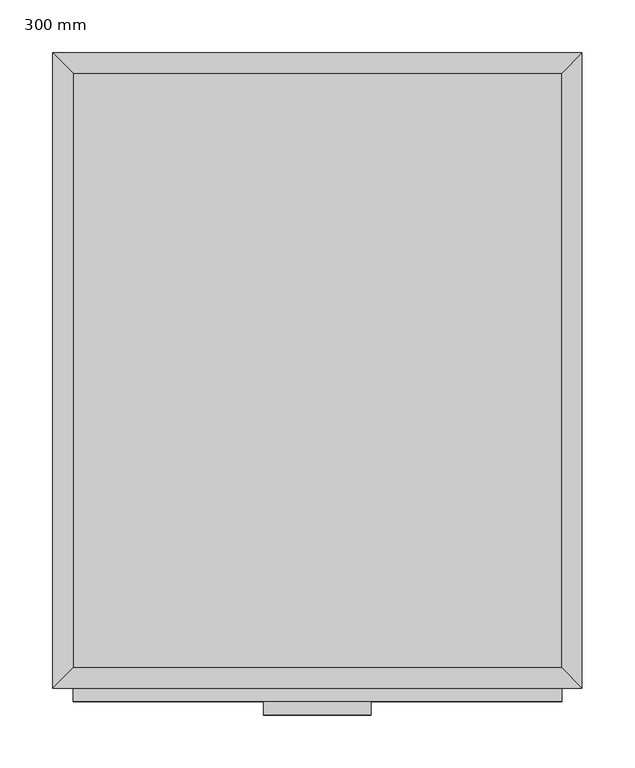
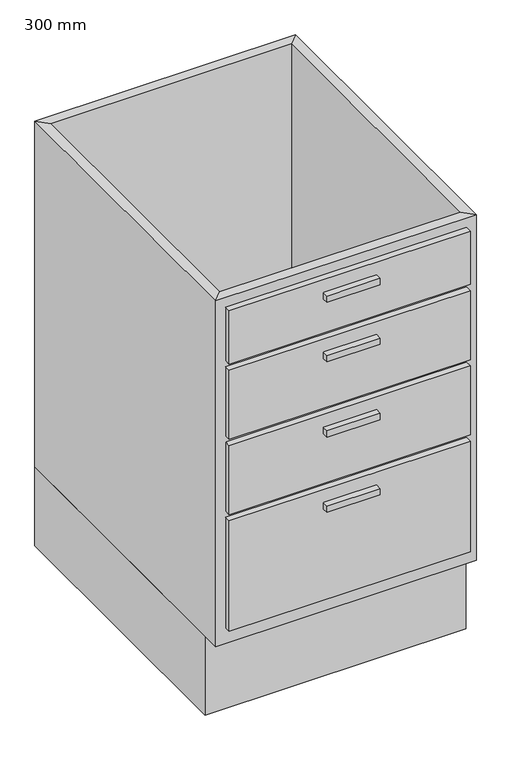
"""IFC4 building model written with IfcOpenShell, lengths in millimetres: furniture geometry, Armario 4 cajones : 300 mm."""

from ifc_helpers import new_model, si_unit, frame, origin, origin_with_axes, place, context, project, spatial, polyline, outline, extrude, faceted_brep, source, transform, mapped, element, save


def furniture_300_mm_76ee4873(model_context):
    return source(origin(), model_context, "Body", "SolidModel", [
        extrude(outline(polyline([(249.6877049, -19.05), (249.6877049, -580.95), (-212.2122951, -580.95), (-212.2122951, -19.05), (249.6877049, -19.05)])), frame((0.0, 0.0, 160.0), z_axis=(0.0, 0.0, 1.0), x_axis=(1.0, 0.0, 0.0)), (0.0, 0.0, 1.0), 19.05),
        faceted_brep([(249.6877049, -580.95, 860.0), (249.6877049, -580.95, 160.0), (-212.2122951, -580.95, 160.0), (-212.2122951, -580.95, 860.0), (268.7377049, -600.0, 860.0), (-231.2622951, -600.0, 860.0), (268.7377049, -600.0, 160.0), (-231.2622951, -600.0, 160.0), (-212.2122951, -19.05, 160.0), (-212.2122951, -19.05, 860.0), (-231.2622951, 0.0, 860.0), (-231.2622951, 0.0, 160.0), (249.6877049, -19.05, 160.0), (249.6877049, -19.05, 860.0), (268.7377049, 0.0, 860.0), (268.7377049, 0.0, 160.0)], [[[0, 1, 2, 3]], [[4, 0, 3, 5]], [[6, 4, 5, 7]], [[1, 6, 7, 2]], [[3, 2, 8, 9]], [[5, 3, 9, 10]], [[7, 5, 10, 11]], [[2, 7, 11, 8]], [[9, 8, 12, 13]], [[10, 9, 13, 14]], [[11, 10, 14, 15]], [[8, 11, 15, 12]], [[13, 12, 1, 0]], [[14, 13, 0, 4]], [[15, 14, 4, 6]], [[12, 15, 6, 1]]]),
        extrude(outline(polyline([(268.7377049, 0.0), (268.7377049, -565.0), (-231.2622951, -565.0), (-231.2622951, 0.0), (268.7377049, 0.0)])), origin_with_axes(), (0.0, 0.0, 1.0), 160.0),
        extrude(outline(polyline([(249.6877049, -612.7), (-212.2122951, -612.7), (-212.2122951, -600.0), (249.6877049, -600.0), (249.6877049, -612.7)])), frame((0.0, 0.0, 733.0), z_axis=(0.0, 0.0, 1.0), x_axis=(1.0, 0.0, 0.0)), (0.0, 0.0, 1.0), 107.95),
        extrude(outline(polyline([(249.6877049, -612.7), (-212.2122951, -612.7), (-212.2122951, -600.0), (249.6877049, -600.0), (249.6877049, -612.7)])), frame((0.0, 0.0, 580.6), z_axis=(0.0, 0.0, 1.0), x_axis=(1.0, 0.0, 0.0)), (0.0, 0.0, 1.0), 139.7),
        extrude(outline(polyline([(249.6877049, -612.7), (-212.2122951, -612.7), (-212.2122951, -600.0), (249.6877049, -600.0), (249.6877049, -612.7)])), frame((0.0, 0.0, 428.2), z_axis=(0.0, 0.0, 1.0), x_axis=(1.0, 0.0, 0.0)), (0.0, 0.0, 1.0), 139.7),
        extrude(outline(polyline([(249.6877049, -612.7), (-212.2122951, -612.7), (-212.2122951, -600.0), (249.6877049, -600.0), (249.6877049, -612.7)])), frame((0.0, 0.0, 191.75), z_axis=(0.0, 0.0, 1.0), x_axis=(1.0, 0.0, 0.0)), (0.0, 0.0, 1.0), 223.75),
        extrude(outline(polyline([(69.5377049, -625.4), (-32.0622951, -625.4), (-32.0622951, -612.7), (69.5377049, -612.7), (69.5377049, -625.4)])), frame((0.0, 0.0, 802.85), z_axis=(0.0, 0.0, 1.0), x_axis=(1.0, 0.0, 0.0)), (0.0, 0.0, 1.0), 12.7),
        extrude(outline(polyline([(69.5377049, -625.4), (-32.0622951, -625.4), (-32.0622951, -612.7), (69.5377049, -612.7), (69.5377049, -625.4)])), frame((0.0, 0.0, 682.2), z_axis=(0.0, 0.0, 1.0), x_axis=(1.0, 0.0, 0.0)), (0.0, 0.0, 1.0), 12.7),
        extrude(outline(polyline([(69.5377049, -625.4), (-32.0622951, -625.4), (-32.0622951, -612.7), (69.5377049, -612.7), (69.5377049, -625.4)])), frame((0.0, 0.0, 529.8), z_axis=(0.0, 0.0, 1.0), x_axis=(1.0, 0.0, 0.0)), (0.0, 0.0, 1.0), 12.7),
        extrude(outline(polyline([(69.5377049, -625.4), (-32.0622951, -625.4), (-32.0622951, -612.7), (69.5377049, -612.7), (69.5377049, -625.4)])), frame((0.0, 0.0, 377.4), z_axis=(0.0, 0.0, 1.0), x_axis=(1.0, 0.0, 0.0)), (0.0, 0.0, 1.0), 12.7),
    ])


if __name__ == "__main__":
    model = new_model("IFC4")
    model_context = context("Model", 3, world=origin())
    ifc_project = project(units=[si_unit("LENGTHUNIT", "METRE", prefix="MILLI")], contexts=[model_context])
    site = spatial("IfcSite", under=ifc_project)
    building = spatial("IfcBuilding", under=site)
    placement = place(None, origin())
    furniture_300_mm_shape = furniture_300_mm_76ee4873(model_context)
    element("IfcFurniture", 1, ObjectType="Armario 4 cajones : 300 mm", at=placement, inside=building, context=model_context, shape_type="MappedRepresentation", body=[
        mapped(furniture_300_mm_shape, transform((0.0, 0.0, 0.0), x_axis=(1.0, 0.0, 0.0), y_axis=(0.0, 1.0, 0.0), z_axis=(0.0, 0.0, 1.0))),
    ])
    save(model, "model.ifc")
